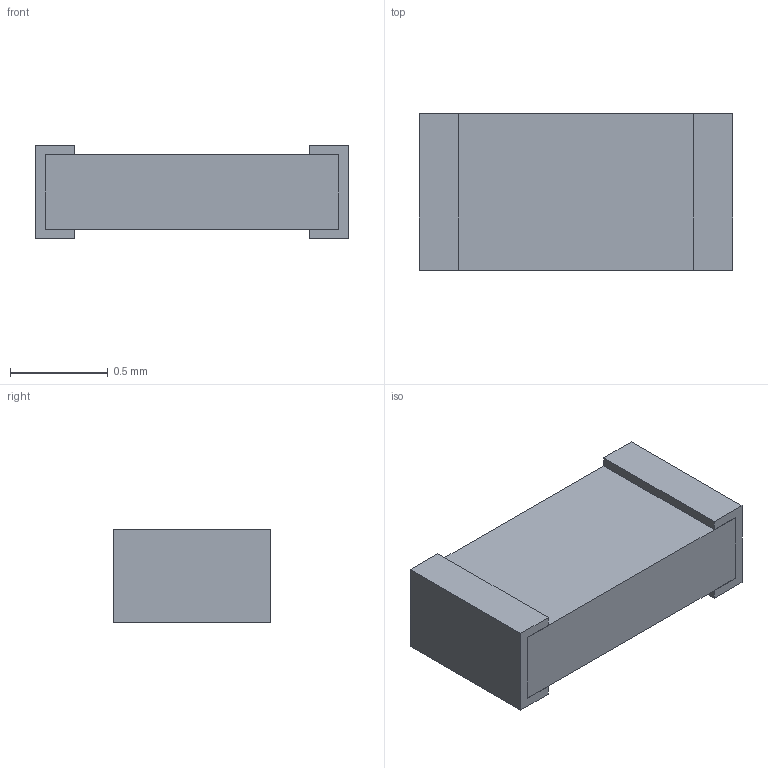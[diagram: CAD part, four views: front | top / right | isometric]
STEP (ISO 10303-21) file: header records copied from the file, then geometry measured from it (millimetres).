
FILE_DESCRIPTION(('STEP AP203'), '1');
FILE_NAME('0603', '', ('UNSPECIFIED'), ('UNSPECIFIED'), 'ASCON STEP Converter 1.6', 'ASCON Math Kernel', '');
FILE_SCHEMA(('CONFIG_CONTROL_DESIGN'));
Length unit declared in the file: millimetre
Bounding box: 1.6 x 0.8 x 0.48 mm (x, y, z)
Volume: 0.5 mm3; surface area: 7 mm2
Topology: 3 solids, 3 shells, 26 faces, 60 edges, 40 vertices
Faces by surface type: plane 26
Entity records: 988 total; most frequent: CARTESIAN_POINT 127, ORIENTED_EDGE 120, DIRECTION 114, EDGE_CURVE 60, LINE 60, VECTOR 60, VERTEX_POINT 40, COLOUR_RGB 29
